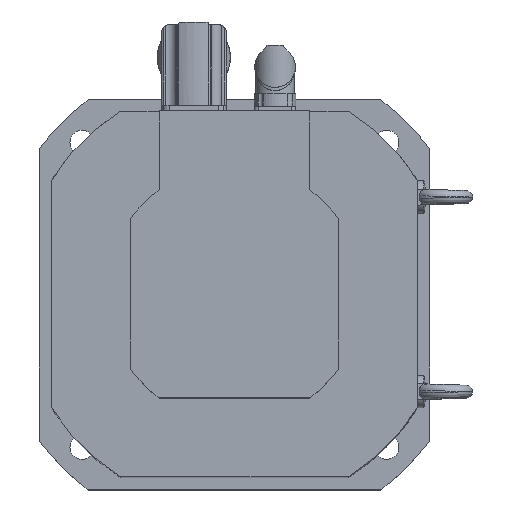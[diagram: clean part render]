
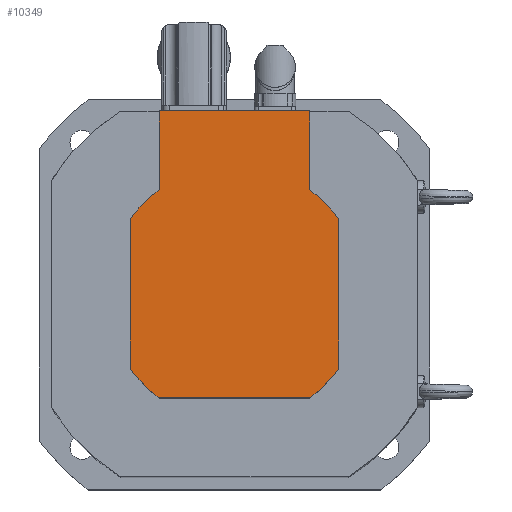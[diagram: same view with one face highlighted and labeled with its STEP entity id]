
A CAD part, top view. The second image highlights one B-rep face of the part: STEP entity #10349.
In plain terms, the highlighted planar face has unit normal (0, 0, 1).
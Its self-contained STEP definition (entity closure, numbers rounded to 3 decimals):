
#9885=CARTESIAN_POINT('',(64.,46.314,54.));
#9886=VERTEX_POINT('',#9885);
#9893=CARTESIAN_POINT('',(64.,-46.314,54.));
#9894=VERTEX_POINT('',#9893);
#9895=CARTESIAN_POINT('',(64.,-46.314,54.));
#9896=DIRECTION('',(0.0,1.0,0.0));
#9897=VECTOR('',#9896,92.628);
#9898=LINE('',#9895,#9897);
#9899=EDGE_CURVE('',#9894,#9886,#9898,.T.);
#9924=CARTESIAN_POINT('',(-64.,-46.314,54.));
#9925=VERTEX_POINT('',#9924);
#9932=CARTESIAN_POINT('',(-64.,46.314,54.));
#9933=VERTEX_POINT('',#9932);
#9934=CARTESIAN_POINT('',(-64.,46.314,54.));
#9935=DIRECTION('',(0.0,-1.0,0.0));
#9936=VECTOR('',#9935,92.628);
#9937=LINE('',#9934,#9936);
#9938=EDGE_CURVE('',#9933,#9925,#9937,.T.);
#9955=CARTESIAN_POINT('',(46.314,-64.,54.));
#9956=VERTEX_POINT('',#9955);
#9963=CARTESIAN_POINT('',(-46.314,-64.,54.));
#9964=VERTEX_POINT('',#9963);
#9965=CARTESIAN_POINT('',(-46.314,-64.,54.));
#9966=DIRECTION('',(1.0,0.0,0.0));
#9967=VECTOR('',#9966,92.628);
#9968=LINE('',#9965,#9967);
#9969=EDGE_CURVE('',#9964,#9956,#9968,.T.);
#9987=CARTESIAN_POINT('',(0.0,0.0,54.0));
#9988=DIRECTION('',(0.0,0.0,-1.0));
#9989=DIRECTION('',(-1.0,0.0,0.0));
#9990=AXIS2_PLACEMENT_3D('',#9987,#9988,#9989);
#9991=CIRCLE('',#9990,79.0);
#9992=EDGE_CURVE('',#9894,#9956,#9991,.T.);
#10006=CARTESIAN_POINT('',(46.314,64.0,54.));
#10007=VERTEX_POINT('',#10006);
#10014=CARTESIAN_POINT('',(0.0,0.0,54.0));
#10015=DIRECTION('',(0.0,0.0,-1.0));
#10016=DIRECTION('',(-1.0,0.0,0.0));
#10017=AXIS2_PLACEMENT_3D('',#10014,#10015,#10016);
#10018=CIRCLE('',#10017,79.0);
#10019=EDGE_CURVE('',#10007,#9886,#10018,.T.);
#10030=CARTESIAN_POINT('',(-46.314,64.0,54.));
#10031=VERTEX_POINT('',#10030);
#10032=CARTESIAN_POINT('',(0.0,0.0,54.0));
#10033=DIRECTION('',(0.0,0.0,-1.0));
#10034=DIRECTION('',(-1.0,0.0,0.0));
#10035=AXIS2_PLACEMENT_3D('',#10032,#10033,#10034);
#10036=CIRCLE('',#10035,79.0);
#10037=EDGE_CURVE('',#9933,#10031,#10036,.T.);
#10057=CARTESIAN_POINT('',(0.0,0.0,54.0));
#10058=DIRECTION('',(0.0,0.0,-1.0));
#10059=DIRECTION('',(-1.0,0.0,0.0));
#10060=AXIS2_PLACEMENT_3D('',#10057,#10058,#10059);
#10061=CIRCLE('',#10060,79.0);
#10062=EDGE_CURVE('',#9964,#9925,#10061,.T.);
#10073=CARTESIAN_POINT('',(-46.314,112.5,54.));
#10074=VERTEX_POINT('',#10073);
#10075=CARTESIAN_POINT('',(-46.314,64.0,54.));
#10076=DIRECTION('',(0.0,1.0,0.0));
#10077=VECTOR('',#10076,48.5);
#10078=LINE('',#10075,#10077);
#10079=EDGE_CURVE('',#10031,#10074,#10078,.T.);
#10098=CARTESIAN_POINT('',(46.314,112.5,54.));
#10099=VERTEX_POINT('',#10098);
#10106=CARTESIAN_POINT('',(46.314,64.0,54.));
#10107=DIRECTION('',(0.0,1.0,0.0));
#10108=VECTOR('',#10107,48.5);
#10109=LINE('',#10106,#10108);
#10110=EDGE_CURVE('',#10007,#10099,#10109,.T.);
#10312=CARTESIAN_POINT('',(-46.314,112.5,54.));
#10313=DIRECTION('',(1.0,0.0,0.0));
#10314=VECTOR('',#10313,92.628);
#10315=LINE('',#10312,#10314);
#10316=EDGE_CURVE('',#10074,#10099,#10315,.T.);
#10332=CARTESIAN_POINT('',(64.,-64.,54.0));
#10333=DIRECTION('',(0.0,0.0,-1.0));
#10334=DIRECTION('',(-1.0,0.0,0.0));
#10335=AXIS2_PLACEMENT_3D('',#10332,#10333,#10334);
#10336=PLANE('',#10335);
#10337=ORIENTED_EDGE('',*,*,#10037,.F.);
#10338=ORIENTED_EDGE('',*,*,#9938,.T.);
#10339=ORIENTED_EDGE('',*,*,#10062,.F.);
#10340=ORIENTED_EDGE('',*,*,#9969,.T.);
#10341=ORIENTED_EDGE('',*,*,#9992,.F.);
#10342=ORIENTED_EDGE('',*,*,#9899,.T.);
#10343=ORIENTED_EDGE('',*,*,#10019,.F.);
#10344=ORIENTED_EDGE('',*,*,#10110,.T.);
#10345=ORIENTED_EDGE('',*,*,#10316,.F.);
#10346=ORIENTED_EDGE('',*,*,#10079,.F.);
#10347=EDGE_LOOP('',(#10337,#10338,#10339,#10340,#10341,#10342,#10343,#10344,#10345,#10346));
#10348=FACE_OUTER_BOUND('',#10347,.T.);
#10349=ADVANCED_FACE('',(#10348),#10336,.F.);
